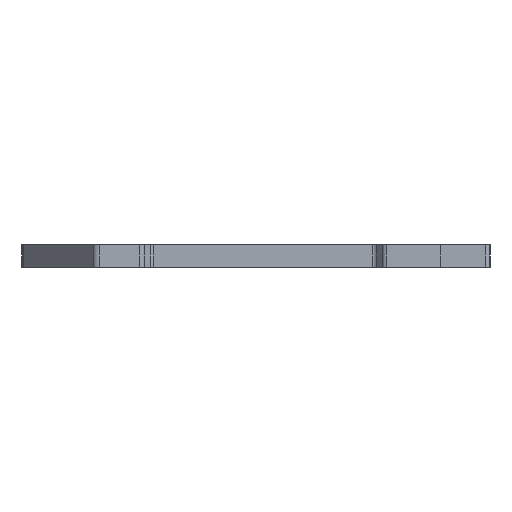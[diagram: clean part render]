
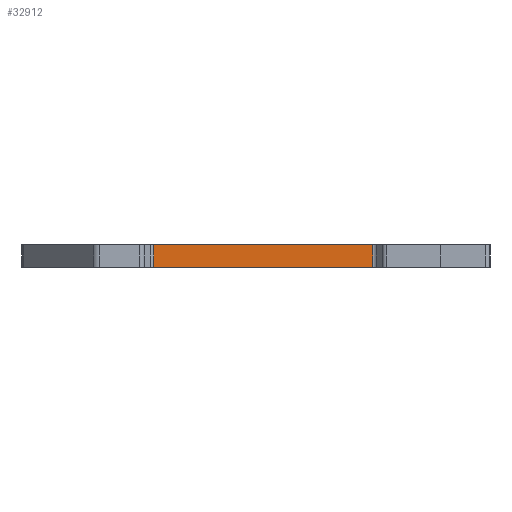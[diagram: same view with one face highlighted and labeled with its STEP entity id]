
A CAD part, left-side view. The second image highlights one B-rep face of the part: STEP entity #32912.
In plain terms, the highlighted planar face has unit normal (-1, 0, 0).
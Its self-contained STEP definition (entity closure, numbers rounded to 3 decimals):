
#1598 = VECTOR ( 'NONE', #33931, 1000. ) ;
#2996 = DIRECTION ( 'NONE',  ( 1., 0., 0. ) ) ;
#6131 = EDGE_CURVE ( 'NONE', #18860, #9155, #34466, .T. ) ;
#6249 = CARTESIAN_POINT ( 'NONE',  ( 2., 4.805, 1.5 ) ) ;
#6715 = ORIENTED_EDGE ( 'NONE', *, *, #25976, .T. ) ;
#6812 = VECTOR ( 'NONE', #34695, 1000. ) ;
#7928 = CARTESIAN_POINT ( 'NONE',  ( 2., 4.805, 0. ) ) ;
#9155 = VERTEX_POINT ( 'NONE', #19584 ) ;
#9723 = CARTESIAN_POINT ( 'NONE',  ( 2., 19.33, 1.5 ) ) ;
#10248 = VERTEX_POINT ( 'NONE', #7928 ) ;
#11501 = LINE ( 'NONE', #39185, #44799 ) ;
#12822 = CARTESIAN_POINT ( 'NONE',  ( 2., 19.33, 1.5 ) ) ;
#13484 = FACE_OUTER_BOUND ( 'NONE', #40544, .T. ) ;
#15094 = DIRECTION ( 'NONE',  ( 0., -1., 0. ) ) ;
#15338 = VERTEX_POINT ( 'NONE', #19908 ) ;
#18860 = VERTEX_POINT ( 'NONE', #33102 ) ;
#19584 = CARTESIAN_POINT ( 'NONE',  ( 2., 19.33, 0. ) ) ;
#19908 = CARTESIAN_POINT ( 'NONE',  ( 2., 4.805, 1.5 ) ) ;
#20065 = LINE ( 'NONE', #12822, #1598 ) ;
#23694 = DIRECTION ( 'NONE',  ( 0., 1., 0. ) ) ;
#25749 = VECTOR ( 'NONE', #34654, 1000. ) ;
#25976 = EDGE_CURVE ( 'NONE', #10248, #15338, #37392, .T. ) ;
#29643 = EDGE_CURVE ( 'NONE', #9155, #10248, #11501, .T. ) ;
#30294 = PLANE ( 'NONE',  #44105 ) ;
#32912 = ADVANCED_FACE ( 'NONE', ( #13484 ), #30294, .F. ) ;
#33102 = CARTESIAN_POINT ( 'NONE',  ( 2., 19.33, 1.5 ) ) ;
#33931 = DIRECTION ( 'NONE',  ( 0., -1., 0. ) ) ;
#34166 = CARTESIAN_POINT ( 'NONE',  ( 2., 19.33, 1.5 ) ) ;
#34466 = LINE ( 'NONE', #9723, #6812 ) ;
#34654 = DIRECTION ( 'NONE',  ( 0., 0., 1. ) ) ;
#34695 = DIRECTION ( 'NONE',  ( 0., 0., -1. ) ) ;
#36330 = ORIENTED_EDGE ( 'NONE', *, *, #6131, .T. ) ;
#37392 = LINE ( 'NONE', #6249, #25749 ) ;
#38761 = EDGE_CURVE ( 'NONE', #18860, #15338, #20065, .T. ) ;
#39185 = CARTESIAN_POINT ( 'NONE',  ( 2., 19.33, 0. ) ) ;
#40544 = EDGE_LOOP ( 'NONE', ( #40626, #6715, #40939, #36330 ) ) ;
#40626 = ORIENTED_EDGE ( 'NONE', *, *, #29643, .T. ) ;
#40939 = ORIENTED_EDGE ( 'NONE', *, *, #38761, .F. ) ;
#44105 = AXIS2_PLACEMENT_3D ( 'NONE', #34166, #2996, #23694 ) ;
#44799 = VECTOR ( 'NONE', #15094, 1000. ) ;
